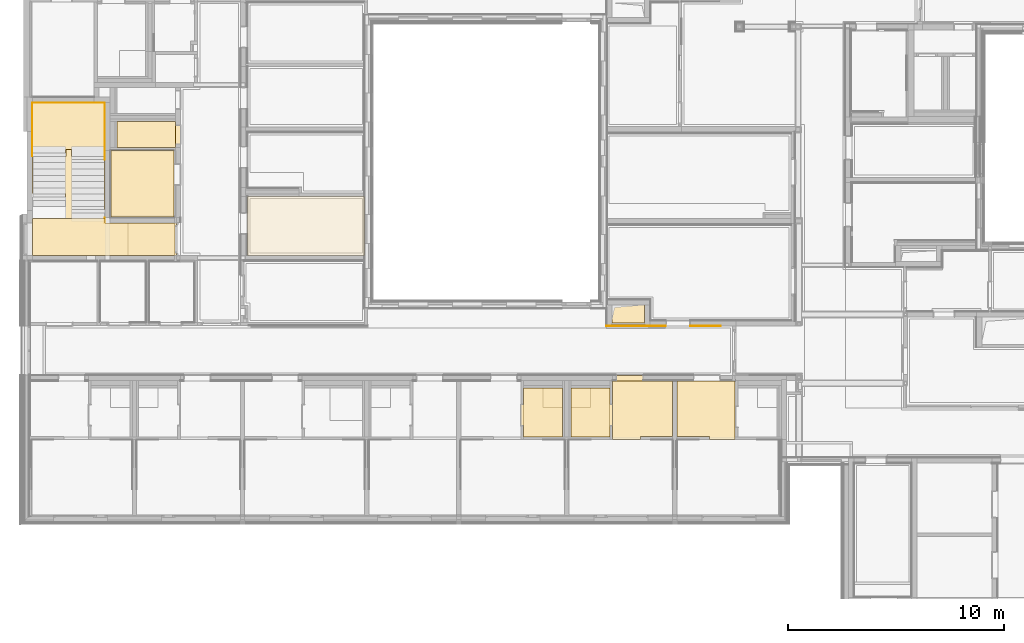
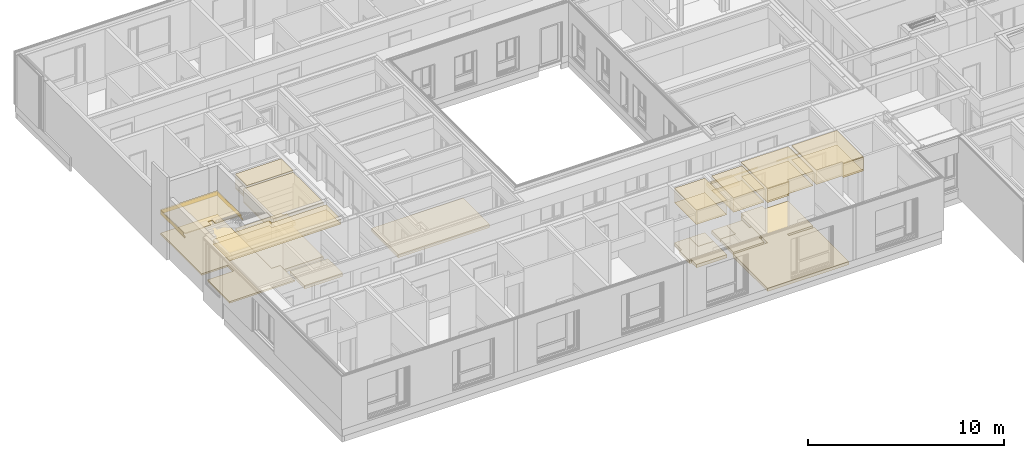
# One storey, part 161 of 207: 40 coverings.
"""IFC4 building model written with IfcOpenShell, lengths in metres."""

from ifc_helpers import new_model, entity, si_unit, converted_unit, derived_unit, frame, frame_2d, origin, origin_with_axes, place, context, subcontext, project, spatial, polyline, rectangle, outline, extrude, material, layer, layer_set, layer_usage, element, save


model = new_model("IFC4")

# Units and contexts
model_context = context("Model", 3, precision=1e-05, world=origin())
body_context = subcontext(model_context, "Body", "Model", "MODEL_VIEW")
ifc_project = project(units=[si_unit("LENGTHUNIT", "METRE"), si_unit("AREAUNIT", "SQUARE_METRE"), si_unit("VOLUMEUNIT", "CUBIC_METRE"), si_unit("MASSUNIT", "GRAM", prefix="KILO"), converted_unit("PLANEANGLEUNIT", "DEGREE", entity("IfcPlaneAngleMeasure", 0.0174532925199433), si_unit("PLANEANGLEUNIT", "RADIAN"), dimensions=[0, 0, 0, 0, 0, 0, 0]), derived_unit("THERMALTRANSMITTANCEUNIT", [(si_unit("POWERUNIT", "WATT"), 1), (si_unit("THERMODYNAMICTEMPERATUREUNIT", "KELVIN"), -1), (si_unit("LENGTHUNIT", "METRE"), -2)]), derived_unit("VOLUMETRICFLOWRATEUNIT", [(si_unit("LENGTHUNIT", "METRE"), 3), (converted_unit("TIMEUNIT", "hour", entity("IfcTimeMeasure", 3600.0), si_unit("TIMEUNIT", "SECOND"), dimensions=[0, 0, 1, 0, 0, 0, 0]), -1), (si_unit("LENGTHUNIT", "METRE"), -1)])], contexts=[model_context])

# Site, building, storey
site_placement = place(None, origin())
site = spatial("IfcSite", under=ifc_project, at=site_placement, Name="Psychiatrie Neubau Wunstorf", CompositionType="ELEMENT")
building_placement = place(site_placement, origin())
building = spatial("IfcBuilding", under=site, at=building_placement, Name="Neubau H2 Stationsgebäude", CompositionType="ELEMENT")
storey_placement = place(building_placement, frame((0.0, 0.0, -0.2)))
storey = spatial("IfcBuildingStorey", under=building, at=storey_placement, Name="H2 Ebene 0", CompositionType="ELEMENT", Elevation=-0.2)

# Covering
ifc_material_1 = material(Name="SE")
ifc_layer_1 = layer(ifc_material_1, 0.19)
ifc_layer_set_1 = layer_set([ifc_layer_1])
ifc_layer_usage_1 = layer_usage(ifc_layer_set_1, "AXIS3", "POSITIVE", 0.0)
covering_1_placement = place(storey_placement, frame((27.1, 6.762, 0.0)))
element("IfcCovering", 1, at=covering_1_placement, inside=storey, material=ifc_layer_usage_1, Name="Estrich", PredefinedType="FLOORING", context=body_context, shape_type="SweptSolid", body=[
    extrude(rectangle(XDim=0.813, YDim=1.5, at=frame_2d((0.75, -0.4065), x_axis=(0.0, -1.0))), frame((0.0, 0.813, 0.0), z_axis=(0.0, 0.0, 1.0), x_axis=(1.0, 0.0, 0.0)), (0.0, 0.0, 1.0), 0.19),
])

# Space
space_1_placement = place(storey_placement, frame((0.28, 9.87499990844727, 0.0)))
space_1 = spatial("IfcSpace", under=storey, at=space_1_placement, Name="WUN-H2-E00-T02", CompositionType="ELEMENT")

# Coverings
ifc_material_2 = material(Name="Fl12")
ifc_layer_2 = layer(ifc_material_2, 0.06)
ifc_layer_set_2 = layer_set([ifc_layer_2])
ifc_layer_usage_2 = layer_usage(ifc_layer_set_2, "AXIS3", "POSITIVE", 0.0)
covering_2_placement = place(space_1_placement, frame((0.0, 4.57997428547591, 2.185)))
element("IfcCovering", 2, at=covering_2_placement, inside=space_1, material=ifc_layer_usage_2, PredefinedType="FLOORING", context=body_context, shape_type="SweptSolid", body=[
    extrude(outline(polyline([(3.35, 2.56999991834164e-05), (3.35, 2.49002571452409), (0.0, 2.49002571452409), (0.0, 0.0), (1.545, 0.0), (1.545, 0.325025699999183), (1.805, 0.325025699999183), (1.805, 2.56999991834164e-05), (3.35, 2.56999991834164e-05)])), origin_with_axes(), (0.0, 0.0, 1.0), 0.06),
])
ifc_material_3 = material(Name="Fl12")
ifc_layer_3 = layer(ifc_material_3, 0.1)
ifc_layer_set_3 = layer_set([ifc_layer_3])
ifc_layer_usage_3 = layer_usage(ifc_layer_set_3, "AXIS3", "POSITIVE", 0.0)
covering_3_placement = place(space_1_placement, frame((0.0, 0.0, 0.655)))
element("IfcCovering", 3, at=covering_3_placement, inside=space_1, material=ifc_layer_usage_3, Name="Fliesen Großformat", PredefinedType="FLOORING", context=body_context, shape_type="SweptSolid", body=[
    extrude(outline(polyline([(1.53999999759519, 2.2599999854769), (0.0, 2.2599999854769), (0.0, 0.0), (3.85, 0.0), (3.85, 1.49999998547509), (3.35, 1.4999999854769), (3.35, 7.07), (0.0, 7.07), (0.0, 2.86589401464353), (1.53999999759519, 2.86589401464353), (1.53999999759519, 2.2599999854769)])), origin_with_axes(), (0.0, 0.0, 1.0), 0.1),
])
ifc_material_4 = material(Name="Fl12")
ifc_layer_4 = layer(ifc_material_4, 0.2)
ifc_layer_set_4 = layer_set([ifc_layer_4])
ifc_layer_usage_4 = layer_usage(ifc_layer_set_4, "AXIS3", "POSITIVE", 0.0)
covering_4_placement = place(space_1_placement, frame((4.43, -1.21519014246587e-05, 0.0)))
element("IfcCovering", 4, at=covering_4_placement, inside=space_1, material=ifc_layer_usage_4, Name="Fliesen Großformat", PredefinedType="FLOORING", context=body_context, shape_type="SweptSolid", body=[
    extrude(outline(polyline([(0.0, 0.0), (0.0949994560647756, 1.14597686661e-06), (0.0949994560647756, 1.50000091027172), (0.0, 1.5), (0.0, 0.0)])), frame((2.15099914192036, 0.0, 0.0), z_axis=(0.0, 0.0, 1.0), x_axis=(1.0, 0.0, 0.0)), (0.0, 0.0, 1.0), 0.2),
    extrude(rectangle(XDim=1.49999998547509, YDim=2.15099877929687, at=frame_2d((-1.07549938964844, 0.749999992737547), x_axis=(0.0, 1.0))), frame((2.15099877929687, 1.21519014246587e-05, 0.0), z_axis=(0.0, 0.0, 1.0), x_axis=(1.0, 0.0, 0.0)), (0.0, 0.0, 1.0), 0.2),
])
ifc_material_5 = material(Name="03")
ifc_layer_5 = layer(ifc_material_5, 0.001)
ifc_layer_set_5 = layer_set([ifc_layer_5])
ifc_layer_usage_5 = layer_usage(ifc_layer_set_5, "AXIS3", "POSITIVE", 0.0)
covering_5_placement = place(space_1_placement, frame((0.0, 1.5, 1.935)))
element("IfcCovering", 5, at=covering_5_placement, inside=space_1, material=ifc_layer_usage_5, Name="Sichtbetonklasse SB3", PredefinedType="CLADDING", context=body_context, shape_type="SweptSolid", body=[
    extrude(rectangle(XDim=0.249999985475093, YDim=0.15, at=frame_2d((-0.124999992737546, 0.075), x_axis=(-1.0, 0.0))), frame((3.35, 0.249999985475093, 1.665), z_axis=(-1.0, 0.0, 0.0), x_axis=(0.0, 1.0, 0.0)), (0.0, 0.0, 1.0), 0.001),
    extrude(outline(polyline([(2.6400000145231, 0.25), (2.6400000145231, 0.0), (0.149999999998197, 0.0), (0.149999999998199, 0.11), (0.0, 0.11), (0.0, 0.25), (2.6400000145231, 0.25)])), frame((3.35, 2.9299999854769, 0.25), z_axis=(-1.0, 4.91141269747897e-16, -1.06001712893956e-16), x_axis=(4.91141269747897e-16, 1.0, 0.0)), (0.0, 0.0, 1.0), 0.001),
    extrude(rectangle(XDim=0.25, YDim=3.35, at=frame_2d((-1.675, -0.125), x_axis=(0.0, -1.0))), frame((0.0, 5.57, 0.0), z_axis=(0.0, -1.0, 0.0), x_axis=(-1.0, 0.0, 0.0)), (0.0, 0.0, 1.0), 0.001),
    extrude(outline(polyline([(0.0, 0.0), (0.0, 0.25), (2.4900257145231, 0.25), (2.4900257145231, 0.11), (2.34002571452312, 0.11), (2.34002571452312, 0.0), (0.0, 0.0)])), frame((0.0, 5.57, 0.25), z_axis=(1.0, -1.03180028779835e-17, 1.16782238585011e-16), x_axis=(-1.03180028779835e-17, -1.0, 0.0)), (0.0, 0.0, 1.0), 0.001),
])
ifc_material_6 = material()
ifc_layer_6 = layer(ifc_material_6, 0.036)
ifc_layer_set_6 = layer_set([ifc_layer_6])
ifc_layer_usage_6 = layer_usage(ifc_layer_set_6, "AXIS3", "POSITIVE", 0.0)
covering_6_placement = place(space_1_placement, frame((0.0, 0.0, 3.6)))
element("IfcCovering", 6, at=covering_6_placement, inside=space_1, material=ifc_layer_usage_6, Name="Gipsfaserplatten 2-lagig (BSK)", PredefinedType="CEILING", context=body_context, shape_type="SweptSolid", body=[
    extrude(outline(polyline([(0.0, 0.0), (3.35, 0.0), (3.35, 0.219999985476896), (6.58099877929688, 0.219999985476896), (6.58099877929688, 1.7199999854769), (0.0, 1.7199999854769), (0.0, 0.0)])), frame((0.0, 1.7199999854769, 0.0), z_axis=(0.0, 0.0, -1.0), x_axis=(1.0, 0.0, 0.0)), (0.0, 0.0, 1.0), 0.036),
])
ifc_material_7 = material(Name="Installationshöhe")
ifc_layer_7 = layer(ifc_material_7, 0.164)
ifc_layer_set_7 = layer_set([ifc_layer_7])
ifc_layer_usage_7 = layer_usage(ifc_layer_set_7, "AXIS3", "POSITIVE", 0.0)
covering_7_placement = place(space_1_placement, frame((0.0, 0.0, 3.564)))
element("IfcCovering", 7, at=covering_7_placement, inside=space_1, material=ifc_layer_usage_7, Name="Gipsfaserplatten 2-lagig (BSK)", PredefinedType="CEILING", context=body_context, shape_type="SweptSolid", body=[
    extrude(outline(polyline([(0.0, 0.0), (3.35, 0.0), (3.35, 0.219999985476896), (6.58099877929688, 0.219999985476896), (6.58099877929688, 1.7199999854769), (0.0, 1.7199999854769), (0.0, 0.0)])), frame((0.0, 1.7199999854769, 0.0), z_axis=(0.0, 0.0, -1.0), x_axis=(1.0, 0.0, 0.0)), (0.0, 0.0, 1.0), 0.164),
])
ifc_material_8 = material(Name="A1")
ifc_layer_8 = layer(ifc_material_8, 0.1)
ifc_layer_set_8 = layer_set([ifc_layer_8])
ifc_layer_usage_8 = layer_usage(ifc_layer_set_8, "AXIS3", "POSITIVE", 0.0)
covering_8_placement = place(space_1_placement, frame((0.0, 0.0, 3.4)))
element("IfcCovering", 8, at=covering_8_placement, inside=space_1, material=ifc_layer_usage_8, Name="Gipsfaserplatten 2-lagig (BSK)", PredefinedType="CEILING", context=body_context, shape_type="SweptSolid", body=[
    extrude(outline(polyline([(0.0, 0.0), (3.35, 0.0), (3.35, 0.219999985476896), (6.58099877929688, 0.219999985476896), (6.58099877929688, 1.7199999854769), (0.0, 1.7199999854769), (0.0, 0.0)])), frame((0.0, 1.7199999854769, 0.0), z_axis=(0.0, 0.0, -1.0), x_axis=(1.0, 0.0, 0.0)), (0.0, 0.0, 1.0), 0.1),
])
ifc_material_9 = material(Name="D1")
ifc_layer_9 = layer(ifc_material_9, 0.001)
ifc_layer_set_9 = layer_set([ifc_layer_9])
ifc_layer_usage_9 = layer_usage(ifc_layer_set_9, "AXIS3", "POSITIVE", 0.0)
covering_9_placement = place(space_1_placement, frame((0.0, 0.0, 3.3)))
element("IfcCovering", 9, at=covering_9_placement, inside=space_1, material=ifc_layer_usage_9, Name="Gipsfaserplatten 2-lagig (BSK)", PredefinedType="CEILING", context=body_context, shape_type="SweptSolid", body=[
    extrude(outline(polyline([(0.0, 0.0), (3.35, 0.0), (3.35, 0.219999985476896), (6.58099877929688, 0.219999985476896), (6.58099877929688, 1.7199999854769), (0.0, 1.7199999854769), (0.0, 0.0)])), frame((0.0, 1.7199999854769, 0.0), z_axis=(0.0, 0.0, -1.0), x_axis=(1.0, 0.0, 0.0)), (0.0, 0.0, 1.0), 0.001),
])

# Space
space_2_placement = place(storey_placement, frame((0.169, 4.33074963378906, 0.0)))
space_2 = spatial("IfcSpace", under=storey, at=space_2_placement, Name="WUN-H2-E00-F04", CompositionType="ELEMENT")

# Covering
ifc_material_10 = material(Name="97")
ifc_layer_10 = layer(ifc_material_10, 0.001)
ifc_layer_set_10 = layer_set([ifc_layer_10])
ifc_layer_usage_10 = layer_usage(ifc_layer_set_10, "AXIS3", "POSITIVE", 0.0)
covering_10_placement = place(space_2_placement, frame((26.6510003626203, 2.28125036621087, 0.8)))
element("IfcCovering", 10, at=covering_10_placement, inside=space_2, material=ifc_layer_usage_10, Name="Handlauf", PredefinedType="CLADDING", context=body_context, shape_type="SweptSolid", body=[
    extrude(rectangle(XDim=1.4, YDim=0.1, at=frame_2d((0.7, -0.05), x_axis=(1.0, 0.0))), frame((5.29499963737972, 0.0, 0.0), z_axis=(-6.17157119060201e-15, -1.0, 4.54747350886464e-15), x_axis=(-1.0, 6.17157119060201e-15, 0.0)), (0.0, 0.0, 1.0), 0.001),
    extrude(rectangle(XDim=0.1, YDim=2.75999963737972, at=frame_2d((1.37999981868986, 0.05), x_axis=(0.0, 1.0))), frame((2.75999963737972, 0.0, 0.1), z_axis=(-6.26101507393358e-15, -1.0, 0.0), x_axis=(-1.0, 6.26101507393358e-15, 0.0)), (0.0, 0.0, 1.0), 0.001),
])

# Space
space_3_placement = place(storey_placement, frame((4.19, 14.8750132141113, 0.0)))
space_3 = spatial("IfcSpace", under=storey, at=space_3_placement, Name="WUN-H2-E00-030", CompositionType="ELEMENT")

# Coverings
ifc_material_11 = material()
ifc_layer_11 = layer(ifc_material_11, 0.036)
ifc_layer_set_11 = layer_set([ifc_layer_11])
ifc_layer_usage_11 = layer_usage(ifc_layer_set_11, "AXIS3", "POSITIVE", 0.0)
covering_11_placement = place(space_3_placement, frame((0.0, 0.0, 3.6)))
element("IfcCovering", 11, at=covering_11_placement, inside=space_3, material=ifc_layer_usage_11, Name="Gipsfaserplatten 2-lagig (BSK)", PredefinedType="CEILING", context=body_context, shape_type="SweptSolid", body=[
    extrude(rectangle(XDim=2.7189987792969, YDim=1.20200000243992, at=frame_2d((-1.35949938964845, -0.60100000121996), x_axis=(-1.0, 0.0))), frame((2.7189987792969, 0.0, 0.0), z_axis=(0.0, 0.0, -1.0), x_axis=(1.0, 0.0, 0.0)), (0.0, 0.0, 1.0), 0.036),
])
ifc_material_12 = material(Name="Installationshöhe")
ifc_layer_12 = layer(ifc_material_12, 0.764)
ifc_layer_set_12 = layer_set([ifc_layer_12])
ifc_layer_usage_12 = layer_usage(ifc_layer_set_12, "AXIS3", "POSITIVE", 0.0)
covering_12_placement = place(space_3_placement, frame((0.0, 0.0, 3.564)))
element("IfcCovering", 12, at=covering_12_placement, inside=space_3, material=ifc_layer_usage_12, Name="Gipsfaserplatten 2-lagig (BSK)", PredefinedType="CEILING", context=body_context, shape_type="SweptSolid", body=[
    extrude(rectangle(XDim=2.7189987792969, YDim=1.20200000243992, at=frame_2d((-1.35949938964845, -0.60100000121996), x_axis=(-1.0, 0.0))), frame((2.7189987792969, 0.0, 0.0), z_axis=(0.0, 0.0, -1.0), x_axis=(1.0, 0.0, 0.0)), (0.0, 0.0, 1.0), 0.764),
])
ifc_material_13 = material(Name="E3")
ifc_layer_13 = layer(ifc_material_13, 0.1)
ifc_layer_set_13 = layer_set([ifc_layer_13])
ifc_layer_usage_13 = layer_usage(ifc_layer_set_13, "AXIS3", "POSITIVE", 0.0)
covering_13_placement = place(space_3_placement, frame((0.0, 0.0, 2.8)))
element("IfcCovering", 13, at=covering_13_placement, inside=space_3, material=ifc_layer_usage_13, Name="Rasterdecke", PredefinedType="CEILING", context=body_context, shape_type="SweptSolid", body=[
    extrude(rectangle(XDim=2.7189987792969, YDim=1.20200000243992, at=frame_2d((-1.35949938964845, -0.60100000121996), x_axis=(-1.0, 0.0))), frame((2.7189987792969, 0.0, 0.0), z_axis=(0.0, 0.0, -1.0), x_axis=(1.0, 0.0, 0.0)), (0.0, 0.0, 1.0), 0.1),
])
ifc_material_14 = material(Name="Fl1")
ifc_layer_14 = layer(ifc_material_14, 0.2)
ifc_layer_set_14 = layer_set([ifc_layer_14])
ifc_layer_usage_14 = layer_usage(ifc_layer_set_14, "AXIS3", "POSITIVE", 0.0)
covering_14_placement = place(space_3_placement, origin())
element("IfcCovering", 14, at=covering_14_placement, inside=space_3, material=ifc_layer_usage_14, Name="Fliesen", PredefinedType="FLOORING", context=body_context, shape_type="SweptSolid", body=[
    extrude(rectangle(XDim=0.232, YDim=0.885, at=frame_2d((0.116, 0.4425), x_axis=(1.0, 0.0))), frame((2.71899877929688, 0.150000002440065, 0.0), z_axis=(0.0, 0.0, 1.0), x_axis=(1.0, 0.0, 0.0)), (0.0, 0.0, 1.0), 0.2),
    extrude(rectangle(XDim=2.7189987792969, YDim=1.20200000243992, at=frame_2d((1.35949938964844, 0.60100000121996), x_axis=(1.0, 0.0))), origin_with_axes(), (0.0, 0.0, 1.0), 0.2),
])

# Space
space_4_placement = place(storey_placement, frame((23.0, 1.48374963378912, 0.0)))
space_4 = spatial("IfcSpace", under=storey, at=space_4_placement, Name="WUN-H2-E00-021a", CompositionType="ELEMENT")

# Coverings
ifc_material_15 = material(Name="Fl1")
ifc_layer_15 = layer(ifc_material_15, 0.2)
ifc_layer_set_15 = layer_set([ifc_layer_15])
ifc_layer_usage_15 = layer_usage(ifc_layer_set_15, "AXIS3", "POSITIVE", 0.0)
covering_15_placement = place(space_4_placement, frame((-0.125, 0.0, 0.0)))
element("IfcCovering", 15, at=covering_15_placement, inside=space_4, material=ifc_layer_usage_15, Name="Fliesen", PredefinedType="FLOORING", context=body_context, shape_type="SweptSolid", body=[
    extrude(rectangle(XDim=0.125, YDim=1.01, at=frame_2d((0.0625, 0.505), x_axis=(1.0, 0.0))), frame((0.0, 0.49999999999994, 0.0), z_axis=(0.0, 0.0, 1.0), x_axis=(1.0, 0.0, 0.0)), (0.0, 0.0, 1.0), 0.2),
    extrude(outline(polyline([(0.0, 0.0), (1.8, 0.0), (1.8, 1.36499999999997), (0.899999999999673, 1.36499999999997), (0.899999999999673, 2.265), (0.0, 2.265), (0.0, 0.0)])), frame((0.125, 0.0, 0.0), z_axis=(0.0, 0.0, 1.0), x_axis=(1.0, 0.0, 0.0)), (0.0, 0.0, 1.0), 0.2),
])
ifc_material_16 = material(Name="Fl2")
ifc_layer_16 = layer(ifc_material_16, 0.2)
ifc_layer_set_16 = layer_set([ifc_layer_16])
ifc_layer_usage_16 = layer_usage(ifc_layer_set_16, "AXIS3", "POSITIVE", 0.0)
covering_16_placement = place(space_4_placement, frame((0.899999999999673, 1.36499999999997, 0.0)))
element("IfcCovering", 16, at=covering_16_placement, inside=space_4, material=ifc_layer_usage_16, Name="Fliesen Mosaik", PredefinedType="FLOORING", context=body_context, shape_type="SweptSolid", body=[
    extrude(rectangle(XDim=0.9, YDim=0.9, at=frame_2d((0.45, -0.45), x_axis=(0.0, -1.0))), frame((0.0, 0.9, 0.0), z_axis=(0.0, 0.0, 1.0), x_axis=(1.0, 0.0, 0.0)), (0.0, 0.0, 1.0), 0.2),
])
ifc_material_17 = material()
ifc_layer_17 = layer(ifc_material_17, 0.036)
ifc_layer_set_17 = layer_set([ifc_layer_17])
ifc_layer_usage_17 = layer_usage(ifc_layer_set_17, "AXIS3", "POSITIVE", 0.0)
covering_17_placement = place(space_4_placement, frame((0.0, 0.0, 3.6)))
element("IfcCovering", 17, at=covering_17_placement, inside=space_4, material=ifc_layer_usage_17, Name="Gipsfaserplatten 2-lagig (BSK)", PredefinedType="CEILING", context=body_context, shape_type="SweptSolid", body=[
    extrude(rectangle(XDim=2.265, YDim=1.8, at=frame_2d((0.9, -1.1325), x_axis=(0.0, -1.0))), frame((0.0, 0.0, 0.0), z_axis=(0.0, 0.0, -1.0), x_axis=(1.0, 0.0, 0.0)), (0.0, 0.0, 1.0), 0.036),
])
ifc_material_18 = material(Name="Installationshöhe")
ifc_layer_18 = layer(ifc_material_18, 0.764)
ifc_layer_set_18 = layer_set([ifc_layer_18])
ifc_layer_usage_18 = layer_usage(ifc_layer_set_18, "AXIS3", "POSITIVE", 0.0)
covering_18_placement = place(space_4_placement, frame((0.0, 0.0, 3.564)))
element("IfcCovering", 18, at=covering_18_placement, inside=space_4, material=ifc_layer_usage_18, Name="Gipsfaserplatten 2-lagig (BSK)", PredefinedType="CEILING", context=body_context, shape_type="SweptSolid", body=[
    extrude(rectangle(XDim=2.265, YDim=1.8, at=frame_2d((0.9, -1.1325), x_axis=(0.0, -1.0))), frame((0.0, 0.0, 0.0), z_axis=(0.0, 0.0, -1.0), x_axis=(1.0, 0.0, 0.0)), (0.0, 0.0, 1.0), 0.764),
])
ifc_material_19 = material(Name="B")
ifc_layer_19 = layer(ifc_material_19, 0.1)
ifc_layer_set_19 = layer_set([ifc_layer_19])
ifc_layer_usage_19 = layer_usage(ifc_layer_set_19, "AXIS3", "POSITIVE", 0.0)
covering_19_placement = place(space_4_placement, frame((0.0, 0.0, 2.8)))
element("IfcCovering", 19, at=covering_19_placement, inside=space_4, material=ifc_layer_usage_19, Name="Gipskarton, imprägniert", PredefinedType="CEILING", context=body_context, shape_type="SweptSolid", body=[
    extrude(rectangle(XDim=2.265, YDim=1.8, at=frame_2d((0.9, -1.1325), x_axis=(0.0, -1.0))), frame((0.0, 0.0, 0.0), z_axis=(0.0, 0.0, -1.0), x_axis=(1.0, 0.0, 0.0)), (0.0, 0.0, 1.0), 0.1),
])
ifc_material_20 = material(Name="D1")
ifc_layer_20 = layer(ifc_material_20, 0.001)
ifc_layer_set_20 = layer_set([ifc_layer_20])
ifc_layer_usage_20 = layer_usage(ifc_layer_set_20, "AXIS3", "POSITIVE", 0.0)
covering_20_placement = place(space_4_placement, frame((0.0, 0.0, 2.7)))
element("IfcCovering", 20, at=covering_20_placement, inside=space_4, material=ifc_layer_usage_20, Name="Gipsfaserplatten 2-lagig (BSK)", PredefinedType="CEILING", context=body_context, shape_type="SweptSolid", body=[
    extrude(rectangle(XDim=2.265, YDim=1.8, at=frame_2d((0.9, -1.1325), x_axis=(0.0, -1.0))), frame((0.0, 0.0, 0.0), z_axis=(0.0, 0.0, -1.0), x_axis=(1.0, 0.0, 0.0)), (0.0, 0.0, 1.0), 0.001),
])

# Space
space_5_placement = place(storey_placement, frame((25.2, 1.48374963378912, 0.0)))
space_5 = spatial("IfcSpace", under=storey, at=space_5_placement, Name="WUN-H2-E00-020a", CompositionType="ELEMENT")

# Coverings
ifc_material_21 = material(Name="Fl1")
ifc_layer_21 = layer(ifc_material_21, 0.2)
ifc_layer_set_21 = layer_set([ifc_layer_21])
ifc_layer_usage_21 = layer_usage(ifc_layer_set_21, "AXIS3", "POSITIVE", 0.0)
covering_21_placement = place(space_5_placement, origin())
element("IfcCovering", 21, at=covering_21_placement, inside=space_5, material=ifc_layer_usage_21, Name="Fliesen", PredefinedType="FLOORING", context=body_context, shape_type="SweptSolid", body=[
    extrude(rectangle(XDim=0.125, YDim=1.01, at=frame_2d((-0.0625, -0.505), x_axis=(-1.0, 0.0))), frame((1.925, 1.50999999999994, 0.0), z_axis=(0.0, 0.0, 1.0), x_axis=(1.0, 0.0, 0.0)), (0.0, 0.0, 1.0), 0.2),
    extrude(outline(polyline([(0.0, 0.0), (1.8, 0.0), (1.8, 2.265), (0.900000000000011, 2.265), (0.900000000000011, 1.36499999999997), (0.0, 1.36499999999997), (0.0, 0.0)])), origin_with_axes(), (0.0, 0.0, 1.0), 0.2),
])
ifc_material_22 = material(Name="Fl2")
ifc_layer_22 = layer(ifc_material_22, 0.2)
ifc_layer_set_22 = layer_set([ifc_layer_22])
ifc_layer_usage_22 = layer_usage(ifc_layer_set_22, "AXIS3", "POSITIVE", 0.0)
covering_22_placement = place(space_5_placement, frame((0.0, 1.36499999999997, 0.0)))
element("IfcCovering", 22, at=covering_22_placement, inside=space_5, material=ifc_layer_usage_22, Name="Fliesen Mosaik", PredefinedType="FLOORING", context=body_context, shape_type="SweptSolid", body=[
    extrude(rectangle(XDim=0.900000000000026, YDim=0.900000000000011, at=frame_2d((0.450000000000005, -0.450000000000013), x_axis=(0.0, -1.0))), frame((0.0, 0.900000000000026, 0.0), z_axis=(0.0, 0.0, 1.0), x_axis=(1.0, 0.0, 0.0)), (0.0, 0.0, 1.0), 0.2),
])
ifc_material_23 = material()
ifc_layer_23 = layer(ifc_material_23, 0.036)
ifc_layer_set_23 = layer_set([ifc_layer_23])
ifc_layer_usage_23 = layer_usage(ifc_layer_set_23, "AXIS3", "POSITIVE", 0.0)
covering_23_placement = place(space_5_placement, frame((0.0, 0.0, 3.6)))
element("IfcCovering", 23, at=covering_23_placement, inside=space_5, material=ifc_layer_usage_23, Name="Gipsfaserplatten 2-lagig (BSK)", PredefinedType="CEILING", context=body_context, shape_type="SweptSolid", body=[
    extrude(rectangle(XDim=1.8, YDim=2.265, at=frame_2d((0.9, 1.1325), x_axis=(1.0, 0.0))), frame((0.0, 2.265, 0.0), z_axis=(0.0, 0.0, -1.0), x_axis=(1.0, 0.0, 0.0)), (0.0, 0.0, 1.0), 0.036),
])
ifc_material_24 = material(Name="Installationshöhe")
ifc_layer_24 = layer(ifc_material_24, 0.764)
ifc_layer_set_24 = layer_set([ifc_layer_24])
ifc_layer_usage_24 = layer_usage(ifc_layer_set_24, "AXIS3", "POSITIVE", 0.0)
covering_24_placement = place(space_5_placement, frame((0.0, 0.0, 3.564)))
element("IfcCovering", 24, at=covering_24_placement, inside=space_5, material=ifc_layer_usage_24, Name="Gipsfaserplatten 2-lagig (BSK)", PredefinedType="CEILING", context=body_context, shape_type="SweptSolid", body=[
    extrude(rectangle(XDim=1.8, YDim=2.265, at=frame_2d((0.9, 1.1325), x_axis=(1.0, 0.0))), frame((0.0, 2.265, 0.0), z_axis=(0.0, 0.0, -1.0), x_axis=(1.0, 0.0, 0.0)), (0.0, 0.0, 1.0), 0.764),
])
ifc_material_25 = material(Name="B")
ifc_layer_25 = layer(ifc_material_25, 0.1)
ifc_layer_set_25 = layer_set([ifc_layer_25])
ifc_layer_usage_25 = layer_usage(ifc_layer_set_25, "AXIS3", "POSITIVE", 0.0)
covering_25_placement = place(space_5_placement, frame((0.0, 0.0, 2.8)))
element("IfcCovering", 25, at=covering_25_placement, inside=space_5, material=ifc_layer_usage_25, Name="Gipskarton, imprägniert", PredefinedType="CEILING", context=body_context, shape_type="SweptSolid", body=[
    extrude(rectangle(XDim=1.8, YDim=2.265, at=frame_2d((0.9, 1.1325), x_axis=(1.0, 0.0))), frame((0.0, 2.265, 0.0), z_axis=(0.0, 0.0, -1.0), x_axis=(1.0, 0.0, 0.0)), (0.0, 0.0, 1.0), 0.1),
])
ifc_material_26 = material(Name="D1")
ifc_layer_26 = layer(ifc_material_26, 0.001)
ifc_layer_set_26 = layer_set([ifc_layer_26])
ifc_layer_usage_26 = layer_usage(ifc_layer_set_26, "AXIS3", "POSITIVE", 0.0)
covering_26_placement = place(space_5_placement, frame((0.0, 0.0, 2.7)))
element("IfcCovering", 26, at=covering_26_placement, inside=space_5, material=ifc_layer_usage_26, Name="Gipsfaserplatten 2-lagig (BSK)", PredefinedType="CEILING", context=body_context, shape_type="SweptSolid", body=[
    extrude(rectangle(XDim=1.8, YDim=2.265, at=frame_2d((0.9, 1.1325), x_axis=(1.0, 0.0))), frame((0.0, 2.265, 0.0), z_axis=(0.0, 0.0, -1.0), x_axis=(1.0, 0.0, 0.0)), (0.0, 0.0, 1.0), 0.001),
])

# Space
space_6_placement = place(storey_placement, frame((3.90999963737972, 11.6549995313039, 0.0)))
space_6 = spatial("IfcSpace", under=storey, at=space_6_placement, Name="WUN-H2-E00-029", CompositionType="ELEMENT")

# Coverings
ifc_material_27 = material()
ifc_layer_27 = layer(ifc_material_27, 0.036)
ifc_layer_set_27 = layer_set([ifc_layer_27])
ifc_layer_usage_27 = layer_usage(ifc_layer_set_27, "AXIS3", "POSITIVE", 0.0)
covering_27_placement = place(space_6_placement, frame((0.0, 0.0, 3.6)))
element("IfcCovering", 27, at=covering_27_placement, inside=space_6, material=ifc_layer_usage_27, Name="Gipsfaserplatten 2-lagig (BSK)", PredefinedType="CEILING", context=body_context, shape_type="SweptSolid", body=[
    extrude(rectangle(XDim=3.07001368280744, YDim=2.92399914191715, at=frame_2d((1.46199957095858, -1.53500684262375), x_axis=(0.0, -1.0))), frame((0.0, 0.0, 0.0), z_axis=(0.0, 0.0, -1.0), x_axis=(1.0, 0.0, 0.0)), (0.0, 0.0, 1.0), 0.036),
])
ifc_material_28 = material(Name="Installationshöhe")
ifc_layer_28 = layer(ifc_material_28, 0.764)
ifc_layer_set_28 = layer_set([ifc_layer_28])
ifc_layer_usage_28 = layer_usage(ifc_layer_set_28, "AXIS3", "POSITIVE", 0.0)
covering_28_placement = place(space_6_placement, frame((0.0, 0.0, 3.564)))
element("IfcCovering", 28, at=covering_28_placement, inside=space_6, material=ifc_layer_usage_28, Name="Gipsfaserplatten 2-lagig (BSK)", PredefinedType="CEILING", context=body_context, shape_type="SweptSolid", body=[
    extrude(rectangle(XDim=3.07001368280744, YDim=2.92399914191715, at=frame_2d((1.46199957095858, -1.53500684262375), x_axis=(0.0, -1.0))), frame((0.0, 0.0, 0.0), z_axis=(0.0, 0.0, -1.0), x_axis=(1.0, 0.0, 0.0)), (0.0, 0.0, 1.0), 0.764),
])
ifc_material_29 = material(Name="E3")
ifc_layer_29 = layer(ifc_material_29, 0.1)
ifc_layer_set_29 = layer_set([ifc_layer_29])
ifc_layer_usage_29 = layer_usage(ifc_layer_set_29, "AXIS3", "POSITIVE", 0.0)
covering_29_placement = place(space_6_placement, frame((0.0, 0.0, 2.8)))
element("IfcCovering", 29, at=covering_29_placement, inside=space_6, material=ifc_layer_usage_29, Name="Rasterdecke", PredefinedType="CEILING", context=body_context, shape_type="SweptSolid", body=[
    extrude(rectangle(XDim=3.07001368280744, YDim=2.92399914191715, at=frame_2d((1.46199957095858, -1.53500684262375), x_axis=(0.0, -1.0))), frame((0.0, 0.0, 0.0), z_axis=(0.0, 0.0, -1.0), x_axis=(1.0, 0.0, 0.0)), (0.0, 0.0, 1.0), 0.1),
])
ifc_material_30 = material(Name="Ku2")
ifc_layer_30 = layer(ifc_material_30, 0.2)
ifc_layer_set_30 = layer_set([ifc_layer_30])
ifc_layer_usage_30 = layer_usage(ifc_layer_set_30, "AXIS3", "POSITIVE", 0.0)
covering_30_placement = place(space_6_placement, origin())
element("IfcCovering", 30, at=covering_30_placement, inside=space_6, material=ifc_layer_usage_30, Name="PVC Bahnenware Uni", PredefinedType="FLOORING", context=body_context, shape_type="SweptSolid", body=[
    extrude(rectangle(XDim=3.07001368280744, YDim=2.92399914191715, at=frame_2d((1.46199957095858, -1.53500684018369), x_axis=(0.0, -1.0))), frame((0.0, 3.07001368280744, 0.0), z_axis=(0.0, 0.0, 1.0), x_axis=(1.0, 0.0, 0.0)), (0.0, 0.0, 1.0), 0.2),
])

# Space
space_7_placement = place(storey_placement, frame((10.2390000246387, 9.88249989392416, 0.0)))
space_7 = spatial("IfcSpace", under=storey, at=space_7_placement, Name="WUN-H2-E00-036", CompositionType="ELEMENT")

# Covering
ifc_material_31 = material(Name="Ku1")
ifc_layer_31 = layer(ifc_material_31, 0.2)
ifc_layer_set_31 = layer_set([ifc_layer_31])
ifc_layer_usage_31 = layer_usage(ifc_layer_set_31, "AXIS3", "POSITIVE", 0.0)
covering_31_placement = place(space_7_placement, origin())
element("IfcCovering", 31, at=covering_31_placement, inside=space_7, material=ifc_layer_usage_31, Name="PVC Bahnenware Holzoptik", PredefinedType="FLOORING", context=body_context, shape_type="SweptSolid", body=[
    extrude(rectangle(XDim=2.72850010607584, YDim=5.39999997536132, at=frame_2d((-2.69999998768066, 1.36425005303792), x_axis=(6.66662757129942e-16, 1.0))), frame((5.39999997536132, 0.0, 0.0), z_axis=(0.0, 0.0, 1.0), x_axis=(1.0, 0.0, 0.0)), (0.0, 0.0, 1.0), 0.2),
])

# Space
space_8_placement = place(storey_placement, frame((25.1, -2.16399999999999, 0.0)))
space_8 = spatial("IfcSpace", under=storey, at=space_8_placement, Name="WUN-H2-E00-020", CompositionType="ELEMENT")

# Coverings
ifc_material_32 = material(Name="Ku1")
ifc_layer_32 = layer(ifc_material_32, 0.2)
ifc_layer_set_32 = layer_set([ifc_layer_32])
ifc_layer_usage_32 = layer_usage(ifc_layer_set_32, "AXIS3", "POSITIVE", 0.0)
covering_32_placement = place(space_8_placement, origin())
element("IfcCovering", 32, at=covering_32_placement, inside=space_8, material=ifc_layer_usage_32, Name="PVC Bahnenware Holzoptik", PredefinedType="FLOORING", context=body_context, shape_type="SweptSolid", body=[
    extrude(rectangle(XDim=0.271499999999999, YDim=1.26, at=frame_2d((-0.63, 0.13575), x_axis=(0.0, 1.0))), frame((3.435, 6.22324963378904, 0.0), z_axis=(0.0, 0.0, 1.0), x_axis=(1.0, 0.0, 0.0)), (0.0, 0.0, 1.0), 0.2),
    extrude(outline(polyline([(2.025, 6.22324963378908), (2.025, 3.5227496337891), (0.0, 3.5227496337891), (0.0, 0.0), (4.8, 0.0), (4.8, 3.52274963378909), (3.29999999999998, 3.52274963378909), (3.3, 3.67274963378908), (4.80000000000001, 3.67274963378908), (4.8, 6.22324963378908), (2.025, 6.22324963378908)])), origin_with_axes(), (0.0, 0.0, 1.0), 0.2),
])
ifc_material_33 = material()
ifc_layer_33 = layer(ifc_material_33, 0.036)
ifc_layer_set_33 = layer_set([ifc_layer_33])
ifc_layer_usage_33 = layer_usage(ifc_layer_set_33, "AXIS3", "POSITIVE", 0.0)
covering_33_placement = place(space_8_placement, frame((2.025, 3.52274963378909, 3.6)))
element("IfcCovering", 33, at=covering_33_placement, inside=space_8, material=ifc_layer_usage_33, Name="Gipsfaserplatten 2-lagig (BSK)", PredefinedType="CEILING", context=body_context, shape_type="SweptSolid", body=[
    extrude(outline(polyline([(1.27500000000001, 2.5505), (1.27499999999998, 2.70049999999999), (0.0, 2.70049999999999), (0.0, 0.0), (2.775, 0.0), (2.77500000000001, 2.5505), (1.27500000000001, 2.5505)])), frame((0.0, 2.70049999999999, 0.0), z_axis=(0.0, 0.0, -1.0), x_axis=(1.0, 0.0, 0.0)), (0.0, 0.0, 1.0), 0.036),
])
ifc_material_34 = material(Name="Installationshöhe")
ifc_layer_34 = layer(ifc_material_34, 0.764)
ifc_layer_set_34 = layer_set([ifc_layer_34])
ifc_layer_usage_34 = layer_usage(ifc_layer_set_34, "AXIS3", "POSITIVE", 0.0)
covering_34_placement = place(space_8_placement, frame((2.025, 3.52274963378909, 3.564)))
element("IfcCovering", 34, at=covering_34_placement, inside=space_8, material=ifc_layer_usage_34, Name="Gipsfaserplatten 2-lagig (BSK)", PredefinedType="CEILING", context=body_context, shape_type="SweptSolid", body=[
    extrude(outline(polyline([(1.27500000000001, 2.5505), (1.27499999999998, 2.70049999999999), (0.0, 2.70049999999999), (0.0, 0.0), (2.775, 0.0), (2.77500000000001, 2.5505), (1.27500000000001, 2.5505)])), frame((0.0, 2.70049999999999, 0.0), z_axis=(0.0, 0.0, -1.0), x_axis=(1.0, 0.0, 0.0)), (0.0, 0.0, 1.0), 0.764),
])
ifc_material_35 = material(Name="A1")
ifc_layer_35 = layer(ifc_material_35, 0.1)
ifc_layer_set_35 = layer_set([ifc_layer_35])
ifc_layer_usage_35 = layer_usage(ifc_layer_set_35, "AXIS3", "POSITIVE", 0.0)
covering_35_placement = place(space_8_placement, frame((2.025, 3.52274963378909, 2.8)))
element("IfcCovering", 35, at=covering_35_placement, inside=space_8, material=ifc_layer_usage_35, Name="Gipsfaserplatten 2-lagig (BSK)", PredefinedType="CEILING", context=body_context, shape_type="SweptSolid", body=[
    extrude(outline(polyline([(1.27500000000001, 2.5505), (1.27499999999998, 2.70049999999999), (0.0, 2.70049999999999), (0.0, 0.0), (2.775, 0.0), (2.77500000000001, 2.5505), (1.27500000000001, 2.5505)])), frame((0.0, 2.70049999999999, 0.0), z_axis=(0.0, 0.0, -1.0), x_axis=(1.0, 0.0, 0.0)), (0.0, 0.0, 1.0), 0.1),
])
ifc_material_36 = material(Name="D1")
ifc_layer_36 = layer(ifc_material_36, 0.001)
ifc_layer_set_36 = layer_set([ifc_layer_36])
ifc_layer_usage_36 = layer_usage(ifc_layer_set_36, "AXIS3", "POSITIVE", 0.0)
covering_36_placement = place(space_8_placement, frame((2.025, 3.52274963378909, 2.7)))
element("IfcCovering", 36, at=covering_36_placement, inside=space_8, material=ifc_layer_usage_36, Name="Gipsfaserplatten 2-lagig (BSK)", PredefinedType="CEILING", context=body_context, shape_type="SweptSolid", body=[
    extrude(outline(polyline([(1.27500000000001, 2.5505), (1.27499999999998, 2.70049999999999), (0.0, 2.70049999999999), (0.0, 0.0), (2.775, 0.0), (2.77500000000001, 2.5505), (1.27500000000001, 2.5505)])), frame((0.0, 2.70049999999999, 0.0), z_axis=(0.0, 0.0, -1.0), x_axis=(1.0, 0.0, 0.0)), (0.0, 0.0, 1.0), 0.001),
])

# Space
space_9_placement = place(storey_placement, frame((30.1, -2.16399999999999, 0.0)))
space_9 = spatial("IfcSpace", under=storey, at=space_9_placement, Name="WUN-H2-E00-019", CompositionType="ELEMENT")

# Coverings
ifc_material_37 = material()
ifc_layer_37 = layer(ifc_material_37, 0.036)
ifc_layer_set_37 = layer_set([ifc_layer_37])
ifc_layer_usage_37 = layer_usage(ifc_layer_set_37, "AXIS3", "POSITIVE", 0.0)
covering_37_placement = place(space_9_placement, frame((0.0, 3.52274963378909, 3.6)))
element("IfcCovering", 37, at=covering_37_placement, inside=space_9, material=ifc_layer_usage_37, Name="Gipsfaserplatten 2-lagig (BSK)", PredefinedType="CEILING", context=body_context, shape_type="SweptSolid", body=[
    extrude(outline(polyline([(2.6925, 2.70049999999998), (1.5, 2.70049999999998), (1.50000000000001, 2.55049999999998), (0.0, 2.55049999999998), (0.0, 0.0), (2.6925, 0.0), (2.6925, 2.70049999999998)])), frame((0.0, 2.70049999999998, 0.0), z_axis=(0.0, 0.0, -1.0), x_axis=(1.0, 0.0, 0.0)), (0.0, 0.0, 1.0), 0.036),
])
ifc_material_38 = material(Name="Installationshöhe")
ifc_layer_38 = layer(ifc_material_38, 0.764)
ifc_layer_set_38 = layer_set([ifc_layer_38])
ifc_layer_usage_38 = layer_usage(ifc_layer_set_38, "AXIS3", "POSITIVE", 0.0)
covering_38_placement = place(space_9_placement, frame((0.0, 3.52274963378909, 3.564)))
element("IfcCovering", 38, at=covering_38_placement, inside=space_9, material=ifc_layer_usage_38, Name="Gipsfaserplatten 2-lagig (BSK)", PredefinedType="CEILING", context=body_context, shape_type="SweptSolid", body=[
    extrude(outline(polyline([(2.6925, 2.70049999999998), (1.5, 2.70049999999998), (1.50000000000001, 2.55049999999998), (0.0, 2.55049999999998), (0.0, 0.0), (2.6925, 0.0), (2.6925, 2.70049999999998)])), frame((0.0, 2.70049999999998, 0.0), z_axis=(0.0, 0.0, -1.0), x_axis=(1.0, 0.0, 0.0)), (0.0, 0.0, 1.0), 0.764),
])
ifc_material_39 = material(Name="A1")
ifc_layer_39 = layer(ifc_material_39, 0.1)
ifc_layer_set_39 = layer_set([ifc_layer_39])
ifc_layer_usage_39 = layer_usage(ifc_layer_set_39, "AXIS3", "POSITIVE", 0.0)
covering_39_placement = place(space_9_placement, frame((0.0, 3.52274963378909, 2.8)))
element("IfcCovering", 39, at=covering_39_placement, inside=space_9, material=ifc_layer_usage_39, Name="Gipsfaserplatten 2-lagig (BSK)", PredefinedType="CEILING", context=body_context, shape_type="SweptSolid", body=[
    extrude(outline(polyline([(2.6925, 2.70049999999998), (1.5, 2.70049999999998), (1.50000000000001, 2.55049999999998), (0.0, 2.55049999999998), (0.0, 0.0), (2.6925, 0.0), (2.6925, 2.70049999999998)])), frame((0.0, 2.70049999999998, 0.0), z_axis=(0.0, 0.0, -1.0), x_axis=(1.0, 0.0, 0.0)), (0.0, 0.0, 1.0), 0.1),
])
ifc_material_40 = material(Name="D1")
ifc_layer_40 = layer(ifc_material_40, 0.001)
ifc_layer_set_40 = layer_set([ifc_layer_40])
ifc_layer_usage_40 = layer_usage(ifc_layer_set_40, "AXIS3", "POSITIVE", 0.0)
covering_40_placement = place(space_9_placement, frame((0.0, 3.52274963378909, 2.7)))
element("IfcCovering", 40, at=covering_40_placement, inside=space_9, material=ifc_layer_usage_40, Name="Gipsfaserplatten 2-lagig (BSK)", PredefinedType="CEILING", context=body_context, shape_type="SweptSolid", body=[
    extrude(outline(polyline([(2.6925, 2.70049999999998), (1.5, 2.70049999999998), (1.50000000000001, 2.55049999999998), (0.0, 2.55049999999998), (0.0, 0.0), (2.6925, 0.0), (2.6925, 2.70049999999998)])), frame((0.0, 2.70049999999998, 0.0), z_axis=(0.0, 0.0, -1.0), x_axis=(1.0, 0.0, 0.0)), (0.0, 0.0, 1.0), 0.001),
])

save(model, "model.ifc")
